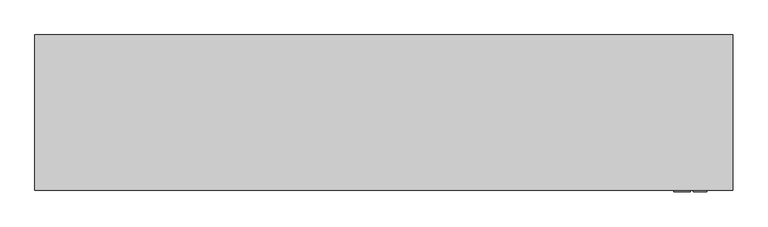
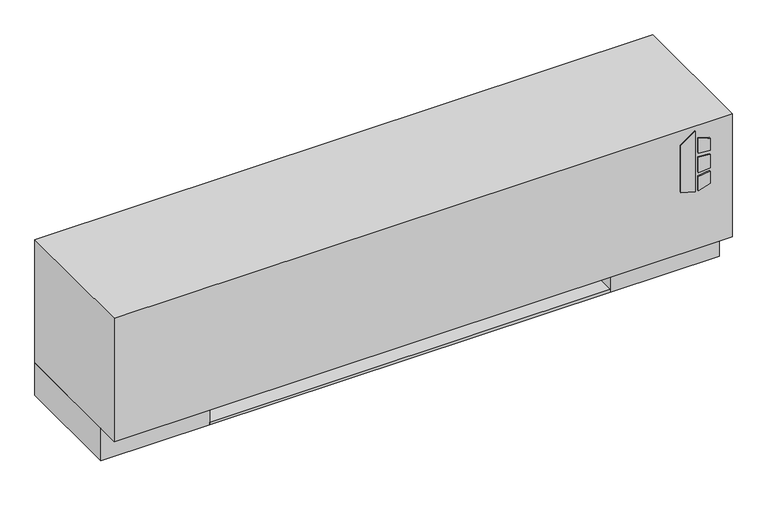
"""IFC4 building model written with IfcOpenShell, lengths in millimetres: proxy geometry, Exposed_Low_Boy_Fan_Coil_Unit Fan_-_LXA_-_IEC_-_2-Pipe_RH_2022 : Size 04 - 277v/60Hz/1Ph - 2/1 Coil."""

from ifc_helpers import new_model, si_unit, point, frame, frame_2d, origin, origin_with_axes, place, context, project, spatial, polyline, circle_curve, trimmed, segment, composite_curve, outline, extrude, faceted_brep, source, transform, mapped, element, save


def mechanical_equipment_322e51af(model_context):
    return source(origin(), model_context, "Body", "SolidModel", [
        faceted_brep([(1460.5, -266.7, 114.3), (1282.7, -266.7, 114.3), (1282.7, -520.7, 114.3), (1460.5, -520.7, 114.3), (1285.875, -269.875, 114.3), (1457.325, -269.875, 114.3), (1457.325, -517.525, 114.3), (1285.875, -517.525, 114.3), (1460.5, -266.7, 88.9), (1460.5, -520.7, 88.9), (1282.7, -520.7, 88.9), (1282.7, -266.7, 88.9), (1457.325, -269.875, 92.0747888), (1285.875, -269.875, 92.0747888), (1285.875, -517.525, 92.0747888), (1457.325, -517.525, 92.0747888)], [[[0, 1, 2, 3], [4, 5, 6, 7]], [[8, 9, 10, 11]], [[1, 0, 8, 11]], [[2, 1, 11, 10]], [[3, 2, 10, 9]], [[0, 3, 9, 8]], [[12, 13, 14, 15]], [[13, 12, 5, 4]], [[14, 13, 4, 7]], [[15, 14, 7, 6]], [[12, 15, 6, 5]]]),
        extrude(outline(composite_curve([segment(trimmed(circle_curve(frame_2d((1371.6, -393.7)), 9.525), [point((1362.075, -393.7))], [point((1381.125, -393.7))], False, "CARTESIAN"), True, "CONTINUOUS"), segment(trimmed(circle_curve(frame_2d((1371.6, -393.7)), 9.525), [point((1381.125, -393.7))], [point((1362.075, -393.7))], False, "CARTESIAN"), True, "CONTINUOUS")], self_intersect=False)), frame((0.0, 0.0, 63.5), z_axis=(0.0, 0.0, 1.0), x_axis=(1.0, 0.0, 0.0)), (0.0, 0.0, 1.0), 25.4),
        extrude(outline(polyline([(222.6730703, 1408.1868862), (212.725, 1440.3602728), (354.8959244, 1440.3602728), (331.8739183, 1408.1868862), (222.6730703, 1408.1868862)])), frame((0.0, -546.1, 0.0), z_axis=(0.0, 1.0, 0.0), x_axis=(0.0, 0.0, 1.0)), (0.0, 0.0, 1.0), 3.175),
        extrude(outline(polyline([(301.6723557, 1447.1186058), (298.4699632, 1473.2), (327.6988042, 1473.2), (335.7632193, 1447.1186058), (301.6723557, 1447.1186058)])), frame((0.0, -546.1, 0.0), z_axis=(0.0, 1.0, 0.0), x_axis=(0.0, 0.0, 1.0)), (0.0, 0.0, 1.0), 3.175),
        extrude(outline(polyline([(249.8088288, 1473.2), (246.1433279, 1447.1186058), (212.725, 1447.1186058), (221.3592372, 1473.2), (249.8088288, 1473.2)])), frame((0.0, -546.1, 0.0), z_axis=(0.0, 1.0, 0.0), x_axis=(0.0, 0.0, 1.0)), (0.0, 0.0, 1.0), 3.175),
        extrude(outline(polyline([(289.1239903, 1473.2), (291.4058166, 1447.1186058), (255.4682681, 1447.1186058), (258.2095331, 1473.2), (289.1239903, 1473.2)])), frame((0.0, -546.1, 0.0), z_axis=(0.0, 1.0, 0.0), x_axis=(0.0, 0.0, 1.0)), (0.0, 0.0, 1.0), 3.175),
        faceted_brep([(1524.0, -238.125, 365.125), (152.4, -238.125, 365.125), (152.4, -542.925, 365.125), (1524.0, -542.925, 365.125), (1524.0, -238.125, 76.2), (1524.0, -542.925, 76.2), (152.4, -542.925, 76.2), (152.4, -238.125, 76.2), (165.1, -238.125, 76.2), (165.1, -517.525, 76.2), (393.7, -517.525, 76.2), (393.7, -238.125, 76.2), (1282.7, -238.125, 76.2), (1282.7, -517.525, 76.2), (1511.3, -517.525, 76.2), (1511.3, -238.125, 76.2), (1511.3, -238.125, 339.725), (1282.7, -238.125, 339.725), (393.7, -238.125, 339.725), (165.1, -238.125, 339.725), (1511.3, -517.525, 339.725), (1282.7, -517.525, 339.725), (393.7, -517.525, 339.725), (165.1, -517.525, 339.725)], [[[0, 1, 2, 3]], [[4, 5, 6, 7, 8, 9, 10, 11, 12, 13, 14, 15]], [[1, 0, 4, 15, 16, 17, 12, 11, 18, 19, 8, 7]], [[2, 1, 7, 6]], [[3, 2, 6, 5]], [[0, 3, 5, 4]], [[16, 20, 21, 17]], [[18, 22, 23, 19]], [[17, 21, 13, 12]], [[21, 20, 14, 13]], [[20, 16, 15, 14]], [[19, 23, 9, 8]], [[23, 22, 10, 9]], [[22, 18, 11, 10]]]),
        extrude(outline(polyline([(1282.7, -492.125), (393.7, -492.125), (393.7, -244.475), (1282.7, -244.475), (1282.7, -492.125)])), origin_with_axes(), (0.0, 0.0, 1.0), 6.35),
        extrude(outline(polyline([(1282.7, -238.125), (1282.7, -244.475), (393.7, -244.475), (393.7, -238.125), (1282.7, -238.125)])), origin_with_axes(), (0.0, 0.0, 1.0), 76.2),
        extrude(outline(polyline([(1524.0, -238.125), (1524.0, -492.125), (1282.7, -492.125), (1282.7, -238.125), (1524.0, -238.125)]), holes=[polyline([(1295.4, -485.775), (1511.3, -485.775), (1511.3, -244.475), (1295.4, -244.475), (1295.4, -485.775)])]), origin_with_axes(), (0.0, 0.0, 1.0), 76.2),
        extrude(outline(polyline([(393.7, -238.125), (393.7, -492.125), (152.4, -492.125), (152.4, -238.125), (393.7, -238.125)]), holes=[polyline([(381.0, -244.475), (165.1, -244.475), (165.1, -485.775), (381.0, -485.775), (381.0, -244.475)])]), origin_with_axes(), (0.0, 0.0, 1.0), 76.2),
        extrude(outline(composite_curve([segment(trimmed(circle_curve(frame_2d((-485.775, 227.0125)), 7.9375), [point((-485.775, 219.075))], [point((-485.775, 234.95))], False, "CARTESIAN"), True, "CONTINUOUS"), segment(trimmed(circle_curve(frame_2d((-485.775, 227.0125)), 7.9375), [point((-485.775, 234.95))], [point((-485.775, 219.075))], False, "CARTESIAN"), True, "CONTINUOUS")], self_intersect=False)), frame((1282.7, 0.0, 0.0), z_axis=(1.0, 0.0, 0.0), x_axis=(0.0, 1.0, 0.0)), (0.0, 0.0, 1.0), 50.8),
        extrude(outline(composite_curve([segment(trimmed(circle_curve(frame_2d((-269.875, 273.05)), 7.9375), [point((-269.875, 265.1125))], [point((-269.875, 280.9875))], False, "CARTESIAN"), True, "CONTINUOUS"), segment(trimmed(circle_curve(frame_2d((-269.875, 273.05)), 7.9375), [point((-269.875, 280.9875))], [point((-269.875, 265.1125))], False, "CARTESIAN"), True, "CONTINUOUS")], self_intersect=False)), frame((1282.7, 0.0, 0.0), z_axis=(1.0, 0.0, 0.0), x_axis=(0.0, 1.0, 0.0)), (0.0, 0.0, 1.0), 50.8),
    ])


if __name__ == "__main__":
    model = new_model("IFC4")
    model_context = context("Model", 3, world=origin())
    ifc_project = project(units=[si_unit("LENGTHUNIT", "METRE", prefix="MILLI")], contexts=[model_context])
    site = spatial("IfcSite", under=ifc_project)
    building = spatial("IfcBuilding", under=site)
    placement = place(None, origin())
    mechanical_equipment_shape = mechanical_equipment_322e51af(model_context)
    element("IfcBuildingElementProxy", 1, Name="Exposed_Low_Boy_Fan_Coil_Unit Fan_-_LXA_-_IEC_-_2-Pipe_RH_2022 : Size 04 - 277v/60Hz/1Ph - 2/1 Coil", ObjectType="Exposed_Low_Boy_Fan_Coil_Unit Fan_-_LXA_-_IEC_-_2-Pipe_RH_2022 : Size 04 - 277v/60Hz/1Ph - 2/1 Coil", at=placement, inside=building, context=model_context, shape_type="MappedRepresentation", body=[
        mapped(mechanical_equipment_shape, transform((0.0, 0.0, 0.0), x_axis=(1.0, 0.0, 0.0), y_axis=(0.0, 1.0, 0.0), z_axis=(0.0, 0.0, 1.0))),
    ])
    save(model, "model.ifc")
